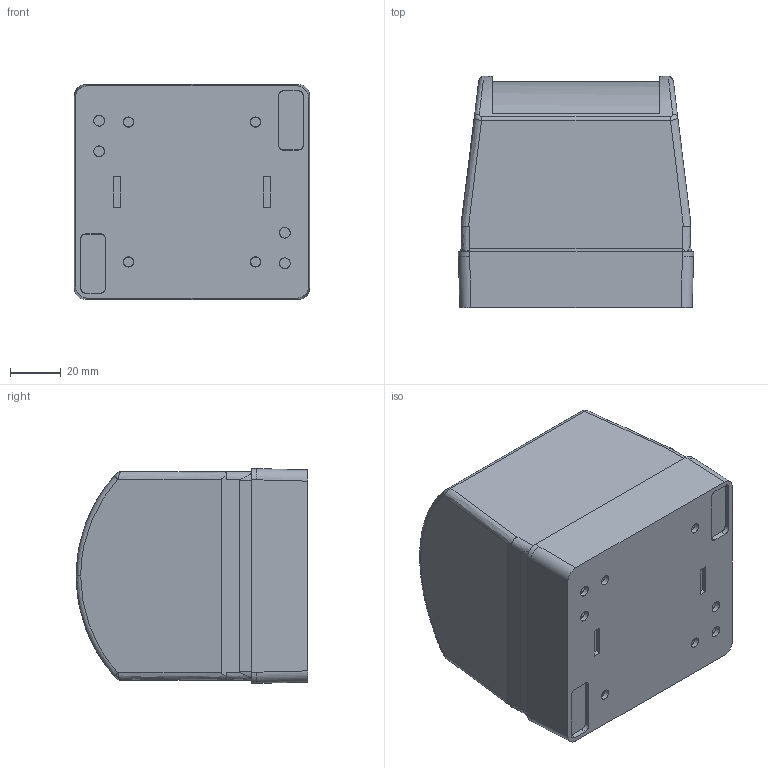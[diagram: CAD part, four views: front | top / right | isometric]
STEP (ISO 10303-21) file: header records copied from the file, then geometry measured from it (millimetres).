
FILE_DESCRIPTION (( 'STEP AP214' ), '1' );
FILE_NAME ('ÀÒÏÍ.425231.002 Èçâåùàòåëü ÈÏÄË-Ä-II_4p.STEP', '2026-06-09T14:03:57', ( '' ), ( '' ), 'SwSTEP 2.0', 'SolidWorks 2023', '' );
FILE_SCHEMA (( 'AUTOMOTIVE_DESIGN' ));
Length unit declared in the file: millimetre
Products named in the file (1): АТПН.425231.002 Извещатель ИПДЛ-Д-II_4p
Bounding box: 92.5 x 91 x 84.5 mm (x, y, z)
Volume: 599510.9 mm3; surface area: 45369 mm2
Topology: 1 solids, 1 shells, 132 faces, 357 edges, 242 vertices
Faces by surface type: plane 77, bspline 55
Entity records: 6166 total; most frequent: CARTESIAN_POINT 3822, ORIENTED_EDGE 682, EDGE_CURVE 341, B_SPLINE_CURVE_WITH_KNOTS 303, VERTEX_POINT 234, EDGE_LOOP 157, DIRECTION 156, FACE_OUTER_BOUND 140
